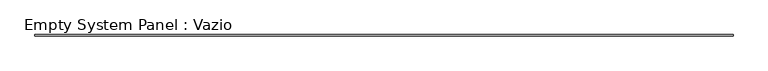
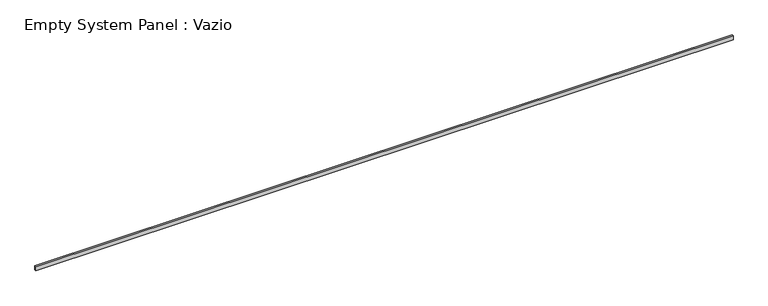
"""IFC4 building model written with IfcOpenShell, lengths in millimetres: plate geometry, Empty System Panel : Vazio."""

from ifc_helpers import new_model, si_unit, origin, origin_with_axes, place, context, project, spatial, polyline, outline, extrude, source, transform, mapped, element, save


def empty_system_panel_vazio_fe0185ec(model_context):
    return source(origin(), model_context, "Body", "SweptSolid", [
        extrude(outline(polyline([(23460.2135497, 50.0), (-23460.2135497, 50.0), (-23460.2135497, 150.0), (23460.2135497, 150.0), (23460.2135497, 50.0)])), origin_with_axes(), (0.0, 0.0, 1.0), 284.7097707),
    ])


if __name__ == "__main__":
    model = new_model("IFC4")
    model_context = context("Model", 3, world=origin())
    ifc_project = project(units=[si_unit("LENGTHUNIT", "METRE", prefix="MILLI")], contexts=[model_context])
    site = spatial("IfcSite", under=ifc_project)
    building = spatial("IfcBuilding", under=site)
    placement = place(None, origin())
    empty_system_panel_vazio_shape = empty_system_panel_vazio_fe0185ec(model_context)
    element("IfcPlate", 1, ObjectType="Empty System Panel : Vazio", at=placement, inside=building, context=model_context, shape_type="MappedRepresentation", body=[
        mapped(empty_system_panel_vazio_shape, transform((0.0, 0.0, 0.0), x_axis=(1.0, 0.0, 0.0), y_axis=(0.0, 1.0, 0.0), z_axis=(0.0, 0.0, 1.0))),
    ])
    save(model, "model.ifc")
